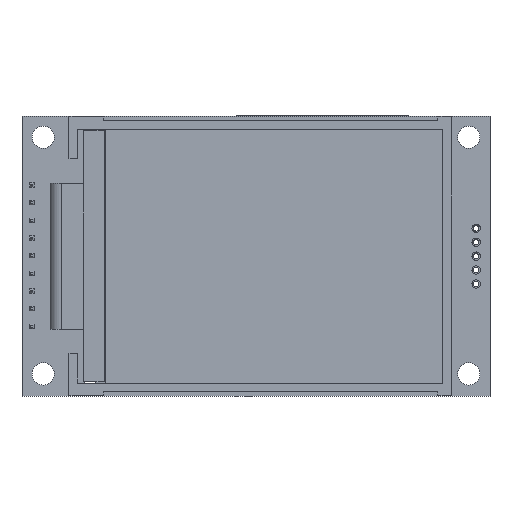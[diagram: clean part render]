
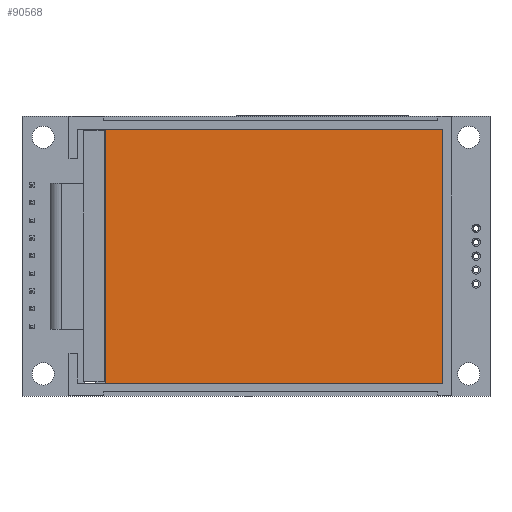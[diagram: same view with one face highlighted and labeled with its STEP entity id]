
A CAD part, top view. The second image highlights one B-rep face of the part: STEP entity #90568.
In plain terms, the highlighted planar face has unit normal (0, 0, 1).
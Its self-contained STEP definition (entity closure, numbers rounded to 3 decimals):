
#90254 = VERTEX_POINT('',#90255);
#90255 = CARTESIAN_POINT('',(-21.65,18.25,4.7));
#90262 = PLANE('',#90263);
#90263 = AXIS2_PLACEMENT_3D('',#90264,#90265,#90266);
#90264 = CARTESIAN_POINT('',(-21.65,18.25,1.7));
#90265 = DIRECTION('',(0.,1.,0.));
#90266 = DIRECTION('',(1.,0.,0.));
#90274 = PLANE('',#90275);
#90275 = AXIS2_PLACEMENT_3D('',#90276,#90277,#90278);
#90276 = CARTESIAN_POINT('',(-21.65,-18.25,1.7));
#90277 = DIRECTION('',(-1.,0.,0.));
#90278 = DIRECTION('',(0.,1.,0.));
#90286 = EDGE_CURVE('',#90254,#90287,#90289,.T.);
#90287 = VERTEX_POINT('',#90288);
#90288 = CARTESIAN_POINT('',(26.85,18.25,4.7));
#90289 = SURFACE_CURVE('',#90290,(#90294,#90301),.PCURVE_S1.);
#90290 = LINE('',#90291,#90292);
#90291 = CARTESIAN_POINT('',(-21.65,18.25,4.7));
#90292 = VECTOR('',#90293,1.);
#90293 = DIRECTION('',(1.,0.,0.));
#90294 = PCURVE('',#90262,#90295);
#90295 = DEFINITIONAL_REPRESENTATION('',(#90296),#90300);
#90296 = LINE('',#90297,#90298);
#90297 = CARTESIAN_POINT('',(0.,-3.));
#90298 = VECTOR('',#90299,1.);
#90299 = DIRECTION('',(1.,0.));
#90300 = ( GEOMETRIC_REPRESENTATION_CONTEXT(2) 
PARAMETRIC_REPRESENTATION_CONTEXT() REPRESENTATION_CONTEXT('2D SPACE',''
  ) );
#90301 = PCURVE('',#90302,#90307);
#90302 = PLANE('',#90303);
#90303 = AXIS2_PLACEMENT_3D('',#90304,#90305,#90306);
#90304 = CARTESIAN_POINT('',(2.6,0.,4.7));
#90305 = DIRECTION('',(0.,0.,-1.));
#90306 = DIRECTION('',(-1.,0.,0.));
#90307 = DEFINITIONAL_REPRESENTATION('',(#90308),#90312);
#90308 = LINE('',#90309,#90310);
#90309 = CARTESIAN_POINT('',(24.25,18.25));
#90310 = VECTOR('',#90311,1.);
#90311 = DIRECTION('',(-1.,0.));
#90312 = ( GEOMETRIC_REPRESENTATION_CONTEXT(2) 
PARAMETRIC_REPRESENTATION_CONTEXT() REPRESENTATION_CONTEXT('2D SPACE',''
  ) );
#90330 = PLANE('',#90331);
#90331 = AXIS2_PLACEMENT_3D('',#90332,#90333,#90334);
#90332 = CARTESIAN_POINT('',(26.85,18.25,1.7));
#90333 = DIRECTION('',(1.,0.,0.));
#90334 = DIRECTION('',(0.,-1.,0.));
#90372 = EDGE_CURVE('',#90287,#90373,#90375,.T.);
#90373 = VERTEX_POINT('',#90374);
#90374 = CARTESIAN_POINT('',(26.85,-18.25,4.7));
#90375 = SURFACE_CURVE('',#90376,(#90380,#90387),.PCURVE_S1.);
#90376 = LINE('',#90377,#90378);
#90377 = CARTESIAN_POINT('',(26.85,18.25,4.7));
#90378 = VECTOR('',#90379,1.);
#90379 = DIRECTION('',(0.,-1.,0.));
#90380 = PCURVE('',#90330,#90381);
#90381 = DEFINITIONAL_REPRESENTATION('',(#90382),#90386);
#90382 = LINE('',#90383,#90384);
#90383 = CARTESIAN_POINT('',(0.,-3.));
#90384 = VECTOR('',#90385,1.);
#90385 = DIRECTION('',(1.,0.));
#90386 = ( GEOMETRIC_REPRESENTATION_CONTEXT(2) 
PARAMETRIC_REPRESENTATION_CONTEXT() REPRESENTATION_CONTEXT('2D SPACE',''
  ) );
#90387 = PCURVE('',#90302,#90388);
#90388 = DEFINITIONAL_REPRESENTATION('',(#90389),#90393);
#90389 = LINE('',#90390,#90391);
#90390 = CARTESIAN_POINT('',(-24.25,18.25));
#90391 = VECTOR('',#90392,1.);
#90392 = DIRECTION('',(0.,-1.));
#90393 = ( GEOMETRIC_REPRESENTATION_CONTEXT(2) 
PARAMETRIC_REPRESENTATION_CONTEXT() REPRESENTATION_CONTEXT('2D SPACE',''
  ) );
#90411 = PLANE('',#90412);
#90412 = AXIS2_PLACEMENT_3D('',#90413,#90414,#90415);
#90413 = CARTESIAN_POINT('',(26.85,-18.25,1.7));
#90414 = DIRECTION('',(0.,-1.,0.));
#90415 = DIRECTION('',(-1.,0.,0.));
#90448 = EDGE_CURVE('',#90373,#90449,#90451,.T.);
#90449 = VERTEX_POINT('',#90450);
#90450 = CARTESIAN_POINT('',(-21.65,-18.25,4.7));
#90451 = SURFACE_CURVE('',#90452,(#90456,#90463),.PCURVE_S1.);
#90452 = LINE('',#90453,#90454);
#90453 = CARTESIAN_POINT('',(26.85,-18.25,4.7));
#90454 = VECTOR('',#90455,1.);
#90455 = DIRECTION('',(-1.,0.,0.));
#90456 = PCURVE('',#90411,#90457);
#90457 = DEFINITIONAL_REPRESENTATION('',(#90458),#90462);
#90458 = LINE('',#90459,#90460);
#90459 = CARTESIAN_POINT('',(0.,-3.));
#90460 = VECTOR('',#90461,1.);
#90461 = DIRECTION('',(1.,0.));
#90462 = ( GEOMETRIC_REPRESENTATION_CONTEXT(2) 
PARAMETRIC_REPRESENTATION_CONTEXT() REPRESENTATION_CONTEXT('2D SPACE',''
  ) );
#90463 = PCURVE('',#90302,#90464);
#90464 = DEFINITIONAL_REPRESENTATION('',(#90465),#90469);
#90465 = LINE('',#90466,#90467);
#90466 = CARTESIAN_POINT('',(-24.25,-18.25));
#90467 = VECTOR('',#90468,1.);
#90468 = DIRECTION('',(1.,0.));
#90469 = ( GEOMETRIC_REPRESENTATION_CONTEXT(2) 
PARAMETRIC_REPRESENTATION_CONTEXT() REPRESENTATION_CONTEXT('2D SPACE',''
  ) );
#90519 = EDGE_CURVE('',#90449,#90254,#90520,.T.);
#90520 = SURFACE_CURVE('',#90521,(#90525,#90532),.PCURVE_S1.);
#90521 = LINE('',#90522,#90523);
#90522 = CARTESIAN_POINT('',(-21.65,-18.25,4.7));
#90523 = VECTOR('',#90524,1.);
#90524 = DIRECTION('',(0.,1.,0.));
#90525 = PCURVE('',#90274,#90526);
#90526 = DEFINITIONAL_REPRESENTATION('',(#90527),#90531);
#90527 = LINE('',#90528,#90529);
#90528 = CARTESIAN_POINT('',(0.,-3.));
#90529 = VECTOR('',#90530,1.);
#90530 = DIRECTION('',(1.,0.));
#90531 = ( GEOMETRIC_REPRESENTATION_CONTEXT(2) 
PARAMETRIC_REPRESENTATION_CONTEXT() REPRESENTATION_CONTEXT('2D SPACE',''
  ) );
#90532 = PCURVE('',#90302,#90533);
#90533 = DEFINITIONAL_REPRESENTATION('',(#90534),#90538);
#90534 = LINE('',#90535,#90536);
#90535 = CARTESIAN_POINT('',(24.25,-18.25));
#90536 = VECTOR('',#90537,1.);
#90537 = DIRECTION('',(0.,1.));
#90538 = ( GEOMETRIC_REPRESENTATION_CONTEXT(2) 
PARAMETRIC_REPRESENTATION_CONTEXT() REPRESENTATION_CONTEXT('2D SPACE',''
  ) );
#90568 = ADVANCED_FACE('',(#90569),#90302,.F.);
#90569 = FACE_BOUND('',#90570,.F.);
#90570 = EDGE_LOOP('',(#90571,#90572,#90573,#90574));
#90571 = ORIENTED_EDGE('',*,*,#90286,.T.);
#90572 = ORIENTED_EDGE('',*,*,#90372,.T.);
#90573 = ORIENTED_EDGE('',*,*,#90448,.T.);
#90574 = ORIENTED_EDGE('',*,*,#90519,.T.);
